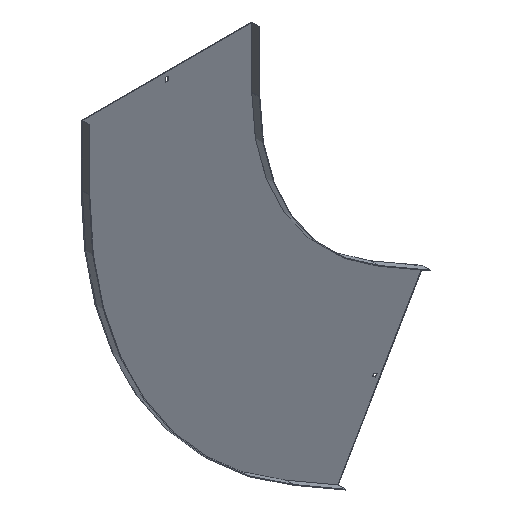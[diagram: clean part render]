
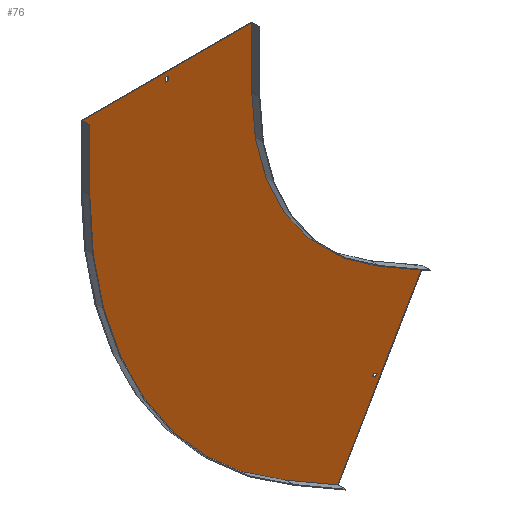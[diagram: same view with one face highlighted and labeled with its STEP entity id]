
A CAD part, isometric view. The second image highlights one B-rep face of the part: STEP entity #76.
In plain terms, the highlighted planar face has unit normal (0, -1, 0).
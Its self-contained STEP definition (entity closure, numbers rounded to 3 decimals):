
#19 = VECTOR ( 'NONE', #647, 1000. ) ;
#25 = LINE ( 'NONE', #828, #446 ) ;
#32 = LINE ( 'NONE', #171, #216 ) ;
#34 = VECTOR ( 'NONE', #810, 1000. ) ;
#39 = EDGE_CURVE ( 'NONE', #799, #780, #860, .T. ) ;
#41 = EDGE_CURVE ( 'NONE', #277, #575, #236, .T. ) ;
#45 = ORIENTED_EDGE ( 'NONE', *, *, #71, .T. ) ;
#49 = VECTOR ( 'NONE', #797, 1000. ) ;
#51 = ORIENTED_EDGE ( 'NONE', *, *, #41, .F. ) ;
#52 = EDGE_LOOP ( 'NONE', ( #45, #342, #642, #278 ) ) ;
#53 = VECTOR ( 'NONE', #623, 1000. ) ;
#65 = VERTEX_POINT ( 'NONE', #156 ) ;
#71 = EDGE_CURVE ( 'NONE', #780, #178, #809, .T. ) ;
#74 = CARTESIAN_POINT ( 'NONE',  ( -282.113, -1.5, -764.635 ) ) ;
#75 = DIRECTION ( 'NONE',  ( 0.866, 0., -0.5 ) ) ;
#76 = ADVANCED_FACE ( 'NONE', ( #687, #612, #546 ), #816, .T. ) ;
#77 = ORIENTED_EDGE ( 'NONE', *, *, #758, .F. ) ;
#85 = LINE ( 'NONE', #164, #34 ) ;
#91 = VECTOR ( 'NONE', #181, 1000. ) ;
#92 = VECTOR ( 'NONE', #106, 1000. ) ;
#94 = DIRECTION ( 'NONE',  ( 0., 0., -1. ) ) ;
#97 = CARTESIAN_POINT ( 'NONE',  ( -375.096, -1.5, -949.686 ) ) ;
#98 = LINE ( 'NONE', #235, #621 ) ;
#103 = CARTESIAN_POINT ( 'NONE',  ( -1010., -1.5, 0. ) ) ;
#106 = DIRECTION ( 'NONE',  ( 0., 0., -1. ) ) ;
#109 = DIRECTION ( 'NONE',  ( -0.866, 0., 0.5 ) ) ;
#113 = ORIENTED_EDGE ( 'NONE', *, *, #722, .F. ) ;
#123 = CARTESIAN_POINT ( 'NONE',  ( -1010., -1.5, 150. ) ) ;
#124 = EDGE_CURVE ( 'NONE', #319, #277, #624, .T. ) ;
#126 = CARTESIAN_POINT ( 'NONE',  ( -164.346, -1.5, -584.656 ) ) ;
#147 = EDGE_CURVE ( 'NONE', #261, #400, #247, .T. ) ;
#153 = DIRECTION ( 'NONE',  ( 0., -1., 0. ) ) ;
#156 = CARTESIAN_POINT ( 'NONE',  ( -590., -1.5, 150. ) ) ;
#164 = CARTESIAN_POINT ( 'NONE',  ( 0., -1.5, 129. ) ) ;
#171 = CARTESIAN_POINT ( 'NONE',  ( -1011.5, -1.5, 150. ) ) ;
#178 = VERTEX_POINT ( 'NONE', #305 ) ;
#181 = DIRECTION ( 'NONE',  ( 0.866, 0., -0.5 ) ) ;
#188 = AXIS2_PLACEMENT_3D ( 'NONE', #318, #774, #519 ) ;
#189 = EDGE_LOOP ( 'NONE', ( #217, #113, #77, #194, #658, #199, #376, #306 ) ) ;
#194 = ORIENTED_EDGE ( 'NONE', *, *, #448, .F. ) ;
#199 = ORIENTED_EDGE ( 'NONE', *, *, #147, .F. ) ;
#216 = VECTOR ( 'NONE', #435, 1000. ) ;
#217 = ORIENTED_EDGE ( 'NONE', *, *, #226, .F. ) ;
#225 = DIRECTION ( 'NONE',  ( 1., 0., 0. ) ) ;
#226 = EDGE_CURVE ( 'NONE', #270, #65, #32, .T. ) ;
#228 = DIRECTION ( 'NONE',  ( 0., 0., -1. ) ) ;
#229 = CARTESIAN_POINT ( 'NONE',  ( 0., -1.5, 138. ) ) ;
#235 = CARTESIAN_POINT ( 'NONE',  ( 119.512, -1.5, -69. ) ) ;
#236 = LINE ( 'NONE', #739, #350 ) ;
#244 = DIRECTION ( 'NONE',  ( -0.866, 0., 0.5 ) ) ;
#247 = LINE ( 'NONE', #370, #91 ) ;
#250 = VERTEX_POINT ( 'NONE', #103 ) ;
#259 = CARTESIAN_POINT ( 'NONE',  ( -398.375, -1.5, -690.006 ) ) ;
#261 = VERTEX_POINT ( 'NONE', #379 ) ;
#267 = CARTESIAN_POINT ( 'NONE',  ( -505., -1.5, -874.686 ) ) ;
#270 = VERTEX_POINT ( 'NONE', #123 ) ;
#277 = VERTEX_POINT ( 'NONE', #651 ) ;
#278 = ORIENTED_EDGE ( 'NONE', *, *, #39, .T. ) ;
#284 = DIRECTION ( 'NONE',  ( -0.5, 0., -0.866 ) ) ;
#305 = CARTESIAN_POINT ( 'NONE',  ( -796.75, -1.5, 138. ) ) ;
#306 = ORIENTED_EDGE ( 'NONE', *, *, #402, .F. ) ;
#318 = CARTESIAN_POINT ( 'NONE',  ( 0., -1.5, 0. ) ) ;
#319 = VERTEX_POINT ( 'NONE', #679 ) ;
#340 = DIRECTION ( 'NONE',  ( 0., 0., -1. ) ) ;
#342 = ORIENTED_EDGE ( 'NONE', *, *, #487, .T. ) ;
#343 = VERTEX_POINT ( 'NONE', #74 ) ;
#346 = LINE ( 'NONE', #408, #663 ) ;
#350 = VECTOR ( 'NONE', #284, 1000. ) ;
#355 = CARTESIAN_POINT ( 'NONE',  ( -803.25, -1.5, 138. ) ) ;
#363 = CIRCLE ( 'NONE', #569, 1010. ) ;
#370 = CARTESIAN_POINT ( 'NONE',  ( -295., -1.5, -510.955 ) ) ;
#373 = CARTESIAN_POINT ( 'NONE',  ( -590., -1.5, 150. ) ) ;
#376 = ORIENTED_EDGE ( 'NONE', *, *, #556, .F. ) ;
#379 = CARTESIAN_POINT ( 'NONE',  ( -295., -1.5, -510.955 ) ) ;
#400 = VERTEX_POINT ( 'NONE', #437 ) ;
#402 = EDGE_CURVE ( 'NONE', #65, #818, #649, .T. ) ;
#403 = VECTOR ( 'NONE', #340, 1000. ) ;
#408 = CARTESIAN_POINT ( 'NONE',  ( -401.625, -1.5, -695.635 ) ) ;
#435 = DIRECTION ( 'NONE',  ( 1., 0., 0. ) ) ;
#437 = CARTESIAN_POINT ( 'NONE',  ( -165.096, -1.5, -585.955 ) ) ;
#440 = VERTEX_POINT ( 'NONE', #97 ) ;
#446 = VECTOR ( 'NONE', #244, 1000. ) ;
#448 = EDGE_CURVE ( 'NONE', #440, #863, #25, .T. ) ;
#470 = VECTOR ( 'NONE', #109, 1000. ) ;
#482 = CARTESIAN_POINT ( 'NONE',  ( 0., -1.5, 0. ) ) ;
#487 = EDGE_CURVE ( 'NONE', #178, #525, #604, .T. ) ;
#488 = DIRECTION ( 'NONE',  ( 0., 1., 0. ) ) ;
#491 = CARTESIAN_POINT ( 'NONE',  ( -803.25, -1.5, 129. ) ) ;
#512 = CIRCLE ( 'NONE', #188, 590. ) ;
#519 = DIRECTION ( 'NONE',  ( 0., 0., -1. ) ) ;
#525 = VERTEX_POINT ( 'NONE', #792 ) ;
#530 = CARTESIAN_POINT ( 'NONE',  ( -289.908, -1.5, -760.135 ) ) ;
#531 = CARTESIAN_POINT ( 'NONE',  ( -803.25, -1.5, 0. ) ) ;
#546 = FACE_BOUND ( 'NONE', #52, .T. ) ;
#552 = CARTESIAN_POINT ( 'NONE',  ( 0., -1.5, 0. ) ) ;
#555 = AXIS2_PLACEMENT_3D ( 'NONE', #482, #153, #94 ) ;
#556 = EDGE_CURVE ( 'NONE', #818, #261, #512, .T. ) ;
#560 = LINE ( 'NONE', #820, #53 ) ;
#566 = DIRECTION ( 'NONE',  ( 0.5, 0., 0.866 ) ) ;
#569 = AXIS2_PLACEMENT_3D ( 'NONE', #552, #488, #228 ) ;
#575 = VERTEX_POINT ( 'NONE', #530 ) ;
#589 = CARTESIAN_POINT ( 'NONE',  ( -590., -1.5, 0. ) ) ;
#598 = EDGE_CURVE ( 'NONE', #400, #440, #711, .T. ) ;
#604 = LINE ( 'NONE', #731, #403 ) ;
#612 = FACE_OUTER_BOUND ( 'NONE', #189, .T. ) ;
#614 = EDGE_CURVE ( 'NONE', #575, #343, #346, .T. ) ;
#621 = VECTOR ( 'NONE', #566, 1000. ) ;
#623 = DIRECTION ( 'NONE',  ( 0., 0., 1. ) ) ;
#624 = LINE ( 'NONE', #259, #470 ) ;
#638 = ORIENTED_EDGE ( 'NONE', *, *, #733, .F. ) ;
#642 = ORIENTED_EDGE ( 'NONE', *, *, #785, .T. ) ;
#647 = DIRECTION ( 'NONE',  ( -0.5, 0., -0.866 ) ) ;
#649 = LINE ( 'NONE', #373, #92 ) ;
#651 = CARTESIAN_POINT ( 'NONE',  ( -286.658, -1.5, -754.506 ) ) ;
#658 = ORIENTED_EDGE ( 'NONE', *, *, #598, .F. ) ;
#663 = VECTOR ( 'NONE', #75, 1000. ) ;
#673 = EDGE_LOOP ( 'NONE', ( #729, #638, #689, #51 ) ) ;
#675 = VECTOR ( 'NONE', #225, 1000. ) ;
#679 = CARTESIAN_POINT ( 'NONE',  ( -278.863, -1.5, -759.006 ) ) ;
#687 = FACE_BOUND ( 'NONE', #673, .T. ) ;
#689 = ORIENTED_EDGE ( 'NONE', *, *, #614, .F. ) ;
#711 = LINE ( 'NONE', #126, #19 ) ;
#722 = EDGE_CURVE ( 'NONE', #250, #270, #560, .T. ) ;
#729 = ORIENTED_EDGE ( 'NONE', *, *, #124, .F. ) ;
#731 = CARTESIAN_POINT ( 'NONE',  ( -796.75, -1.5, 0. ) ) ;
#733 = EDGE_CURVE ( 'NONE', #343, #319, #98, .T. ) ;
#739 = CARTESIAN_POINT ( 'NONE',  ( 111.717, -1.5, -64.5 ) ) ;
#758 = EDGE_CURVE ( 'NONE', #863, #250, #363, .T. ) ;
#774 = DIRECTION ( 'NONE',  ( 0., -1., 0. ) ) ;
#780 = VERTEX_POINT ( 'NONE', #355 ) ;
#785 = EDGE_CURVE ( 'NONE', #525, #799, #85, .T. ) ;
#792 = CARTESIAN_POINT ( 'NONE',  ( -796.75, -1.5, 129. ) ) ;
#797 = DIRECTION ( 'NONE',  ( 0., 0., 1. ) ) ;
#799 = VERTEX_POINT ( 'NONE', #491 ) ;
#809 = LINE ( 'NONE', #229, #675 ) ;
#810 = DIRECTION ( 'NONE',  ( -1., 0., 0. ) ) ;
#816 = PLANE ( 'NONE',  #555 ) ;
#818 = VERTEX_POINT ( 'NONE', #589 ) ;
#820 = CARTESIAN_POINT ( 'NONE',  ( -1010., -1.5, 0. ) ) ;
#828 = CARTESIAN_POINT ( 'NONE',  ( -375.096, -1.5, -949.686 ) ) ;
#860 = LINE ( 'NONE', #531, #49 ) ;
#863 = VERTEX_POINT ( 'NONE', #267 ) ;
